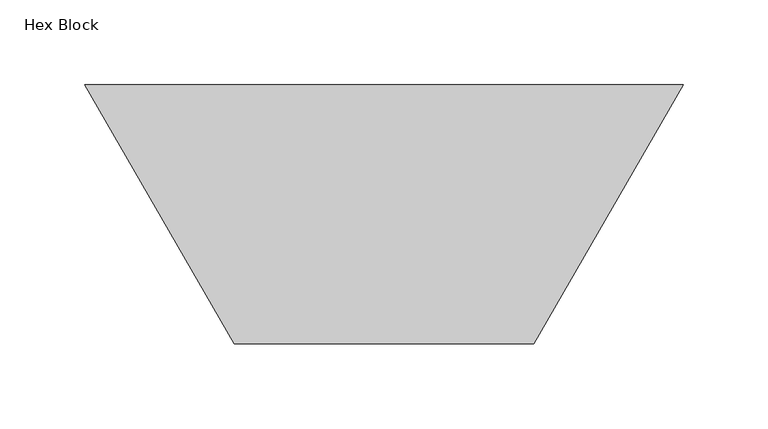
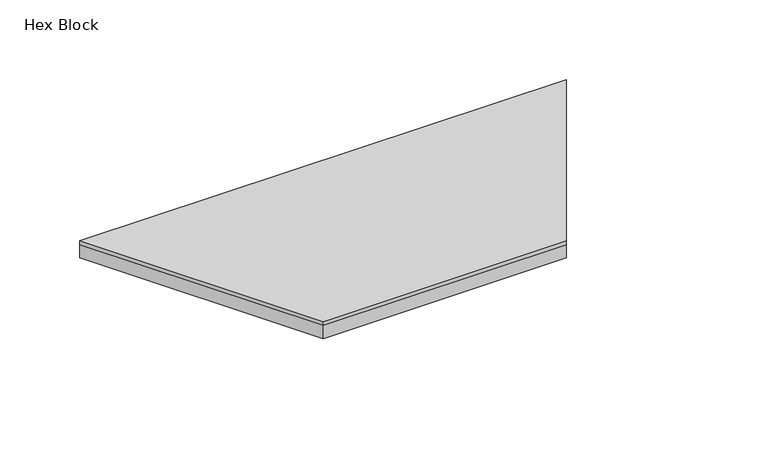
"""IFC4 building model written with IfcOpenShell, lengths in millimetres: proxy geometry, FilzFelt_Hex_Block : Hex Block."""

from ifc_helpers import new_model, si_unit, frame, origin, origin_with_axes, place, context, project, spatial, polyline, outline, extrude, source, transform, mapped, element, save


def hex_block_f7c1a38d(model_context):
    return source(origin(), model_context, "Body", "SweptSolid", [
        extrude(outline(polyline([(175.976362, 0.0), (87.988181, -152.4), (-87.988181, -152.4), (-175.976362, 0.0), (175.976362, 0.0)])), frame((0.0, 0.0, 10.0210937), z_axis=(0.0, 0.0, 1.0), x_axis=(1.0, 0.0, 0.0)), (0.0, 0.0, 1.0), 2.9765625),
        extrude(outline(polyline([(175.976362, 0.0), (87.988181, -152.4), (-87.988181, -152.4), (-175.976362, 0.0), (175.976362, 0.0)])), origin_with_axes(), (0.0, 0.0, 1.0), 10.0210938),
    ])


if __name__ == "__main__":
    model = new_model("IFC4")
    model_context = context("Model", 3, world=origin())
    ifc_project = project(units=[si_unit("LENGTHUNIT", "METRE", prefix="MILLI")], contexts=[model_context])
    site = spatial("IfcSite", under=ifc_project)
    building = spatial("IfcBuilding", under=site)
    placement = place(None, origin())
    hex_block_shape = hex_block_f7c1a38d(model_context)
    element("IfcBuildingElementProxy", 1, Name="FilzFelt_Hex_Block : Hex Block", ObjectType="FilzFelt_Hex_Block : Hex Block", at=placement, inside=building, context=model_context, shape_type="MappedRepresentation", body=[
        mapped(hex_block_shape, transform((0.0, 0.0, 0.0), x_axis=(1.0, 0.0, 0.0), y_axis=(0.0, 1.0, 0.0), z_axis=(0.0, 0.0, 1.0))),
    ])
    save(model, "model.ifc")
